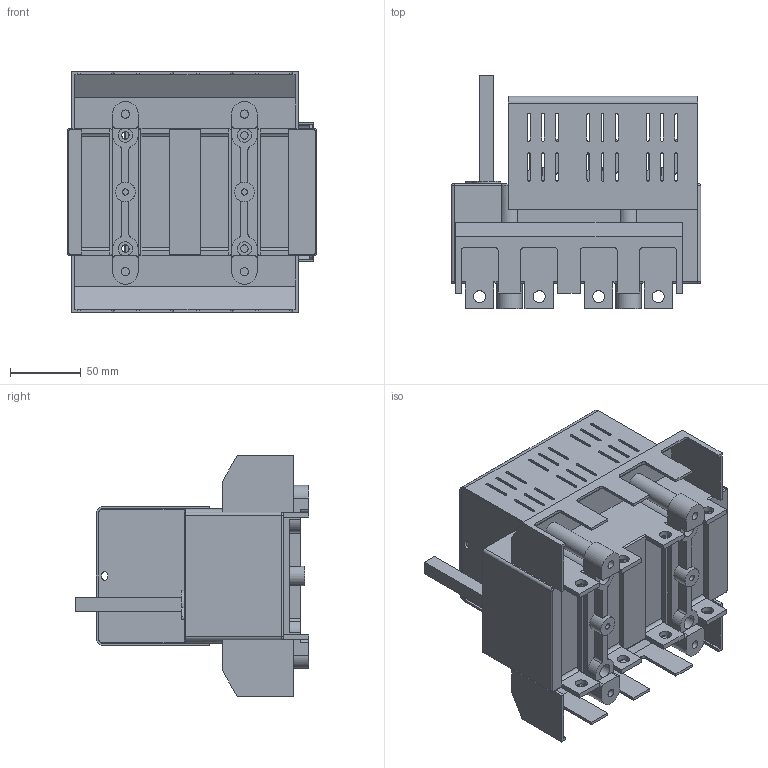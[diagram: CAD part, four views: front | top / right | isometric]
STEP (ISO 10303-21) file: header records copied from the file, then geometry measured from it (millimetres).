
FILE_DESCRIPTION(/* description */ (''),/* implementation_level */ '2;1');
FILE_NAME(/* name */ 'RAB 00 P3 NC z oslona zaciskow.stp',/* time_stamp */ '2021-08-19T11:44:57+02:00',/* author */ (''),/* organization */ (''),/* preprocessor_version */ 'ST-DEVELOPER v18.1',/* originating_system */ 'SIEMENS PLM Software NX 1965',/* authorisation */ '');
FILE_SCHEMA (('AUTOMOTIVE_DESIGN { 1 0 10303 214 3 1 1 1 }'));
Length unit declared in the file: millimetre
Products named in the file (1): RAB 00 P3 NC z oslona zaciskow_stp
Bounding box: 176 x 165 x 169.8 mm (x, y, z)
Volume: 1309006.4 mm3; surface area: 284223.4 mm2
Topology: 1 solids, 1 shells, 962 faces, 2788 edges, 1826 vertices
Faces by surface type: plane 608, cylinder 342, torus 7, bspline 5
Full cylindrical faces by diameter (mm): 2.7 x4, 4.3 x2, 5 x6, 5.3 x4, 5.8 x4, 8.5 x8, 10 x12, 13 x4, 14 x2
Entity records: 31505 total; most frequent: CARTESIAN_POINT 5635, ORIENTED_EDGE 5404, DIRECTION 5314, EDGE_CURVE 2702, LINE 1956, VECTOR 1956, VERTEX_POINT 1786, AXIS2_PLACEMENT_3D 1679
